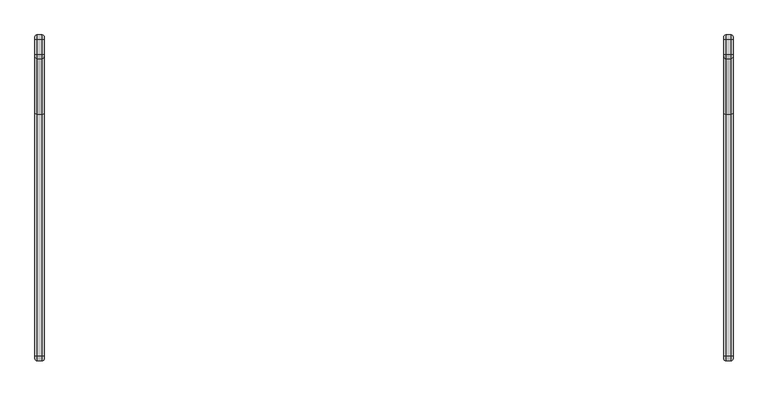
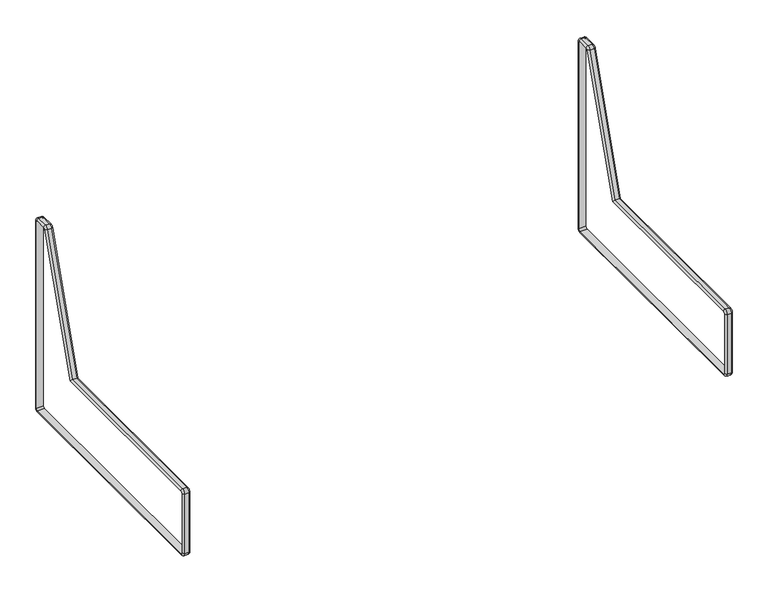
"""IFC4 building model written with IfcOpenShell, lengths in millimetres: furniture geometry, Krug-Amelio-Sleep_Sofa : AME6SL74FALS2."""

from ifc_helpers import new_model, si_unit, point, frame, origin, place, context, project, spatial, polyline, circle_curve, ellipse_curve, trimmed, source, transform, mapped, element, save
from ifc_brep_helpers import plane_surface, cylinder_surface, revolved_surface, advanced_brep


def furniture_eb769623(model_context):
    return source(origin(), model_context, "Body", "AdvancedBrep", [
        advanced_brep(
        [(1860.5501524, -934.6607426, 147.69973), (1860.5501524, -921.9607426, 134.99973), (1873.25, -921.9607426, 134.99973), (1873.25, -934.6607426, 147.69973), (1879.6, -921.9607426, 141.34973), (1879.6, -928.3107426, 147.69973), (1854.2001524, -921.9607426, 141.34973), (1854.2001524, -928.3107426, 147.69973), (1873.25, -934.6607426, 362.29925), (1860.5501524, -934.6607426, 362.29925), (1879.6, -928.3107426, 362.29925), (1854.2001524, -928.3107426, 362.29925), (1860.5501524, -921.9607426, 374.99925), (1873.25, -921.9607426, 374.99925), (1879.6, -921.9607426, 368.64925), (1854.2001524, -921.9607426, 368.64925), (1873.25, -271.3959791, 374.99925), (1860.5501524, -271.3959791, 374.99925), (1879.6, -266.8015951, 368.64925), (1854.2001524, -266.8015951, 368.64925), (1873.25, -122.5871568, 826.8955914), (1860.5501524, -122.5871568, 826.8955914), (1879.6, -116.5557571, 824.9094601), (1854.2001524, -116.5557571, 824.9094601), (1860.5501524, -110.5243574, 835.6233288), (1873.25, -110.5243574, 835.6233288), (1879.6, -110.5243574, 829.2733288), (1854.2001524, -110.5243574, 829.2733288), (1873.25, -70.1124971, 835.6233288), (1860.5501524, -70.1124971, 835.6233288), (1879.6, -70.1124971, 829.2733288), (1854.2001524, -70.1124971, 829.2733288), (1860.5501524, -57.4124971, 822.9233288), (1873.25, -57.4124971, 822.9233288), (1879.6, -63.7624971, 822.9233288), (1854.2001524, -63.7624971, 822.9233288), (1873.25, -57.4124971, 147.69973), (1860.5501524, -57.4124971, 147.69973), (1879.6, -63.7624971, 147.69973), (1854.2001524, -63.7624971, 147.69973), (1860.5501524, -70.1124971, 134.99973), (1873.25, -70.1124971, 134.99973), (1879.6, -70.1124971, 141.34973), (1854.2001524, -70.1124971, 141.34973)],
        [
            (0, 1, circle_curve(frame((1860.5501524, -921.9607426, 147.69973), z_axis=(1.0, 0.0, 0.0), x_axis=(0.0, 0.0, -1.0)), 12.7)),
            (1, 2),
            (2, 3, circle_curve(frame((1873.25, -921.9607426, 147.69973), z_axis=(-1.0, 0.0, 0.0), x_axis=(0.0, 0.0, -1.0)), 12.7)),
            (3, 0),
            (2, 4, circle_curve(frame((1873.25, -921.9607426, 141.34973), z_axis=(0.0, -1.0, 0.0), x_axis=(0.0, 0.0, 1.0)), 6.35)),
            (4, 5, circle_curve(frame((1879.6, -921.9607426, 147.69973), z_axis=(-1.0, 0.0, 0.0), x_axis=(0.0, 0.0, -1.0)), 6.35)),
            (5, 3, circle_curve(frame((1873.25, -928.3107426, 147.69973), z_axis=(0.0, 0.0, -1.0), x_axis=(0.0, 1.0, 0.0)), 6.35)),
            (4, 6),
            (6, 7, circle_curve(frame((1854.2001524, -921.9607426, 147.69973), z_axis=(-1.0, 0.0, 0.0), x_axis=(0.0, 0.0, -1.0)), 6.35)),
            (7, 5),
            (6, 1, circle_curve(frame((1860.5501524, -921.9607426, 141.34973), z_axis=(0.0, -1.0, 0.0), x_axis=(0.0, 0.0, 1.0)), 6.35)),
            (0, 7, circle_curve(frame((1860.5501524, -928.3107426, 147.69973), z_axis=(0.0, 0.0, -1.0), x_axis=(0.0, 1.0, 0.0)), 6.35)),
            (3, 8),
            (8, 9),
            (9, 0),
            (5, 10),
            (10, 8, circle_curve(frame((1873.25, -928.3107426, 362.29925), z_axis=(0.0, 0.0, -1.0), x_axis=(0.0, 1.0, 0.0)), 6.35)),
            (7, 11),
            (11, 10),
            (9, 11, circle_curve(frame((1860.5501524, -928.3107426, 362.29925), z_axis=(0.0, 0.0, -1.0), x_axis=(0.0, 1.0, 0.0)), 6.35)),
            (12, 9, circle_curve(frame((1860.5501524, -921.9607426, 362.29925), z_axis=(1.0, 0.0, 0.0), x_axis=(0.0, -1.0, 0.0)), 12.7)),
            (8, 13, circle_curve(frame((1873.25, -921.9607426, 362.29925), z_axis=(-1.0, 0.0, 0.0), x_axis=(0.0, -1.0, 0.0)), 12.7)),
            (13, 12),
            (10, 14, circle_curve(frame((1879.6, -921.9607426, 362.29925), z_axis=(-1.0, 0.0, 0.0), x_axis=(0.0, -1.0, 0.0)), 6.35)),
            (14, 13, circle_curve(frame((1873.25, -921.9607426, 368.64925), z_axis=(0.0, -1.0, 0.0), x_axis=(0.0, 0.0, -1.0)), 6.35)),
            (11, 15, circle_curve(frame((1854.2001524, -921.9607426, 362.29925), z_axis=(-1.0, 0.0, 0.0), x_axis=(0.0, -1.0, 0.0)), 6.35)),
            (15, 14),
            (12, 15, circle_curve(frame((1860.5501524, -921.9607426, 368.64925), z_axis=(0.0, -1.0, 0.0), x_axis=(0.0, 0.0, -1.0)), 6.35)),
            (13, 16),
            (16, 17),
            (17, 12),
            (14, 18),
            (18, 16, ellipse_curve(frame((1873.25, -266.8015951, 368.64925), z_axis=(0.0, -0.8101779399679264, -0.5861840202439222), x_axis=(0.0, -0.5861840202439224, 0.8101779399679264)), 7.8377844, 6.35)),
            (15, 19),
            (19, 18),
            (17, 19, ellipse_curve(frame((1860.5501524, -266.8015951, 368.64925), z_axis=(0.0, -0.8101779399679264, -0.5861840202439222), x_axis=(0.0, -0.5861840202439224, 0.8101779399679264)), 7.8377844, 6.35)),
            (16, 20),
            (20, 21),
            (21, 17),
            (18, 22),
            (22, 20, circle_curve(frame((1873.25, -116.5557571, 824.9094601), z_axis=(0.0, -0.31277658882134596, -0.9498267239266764), x_axis=(0.0, 0.9498267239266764, -0.31277658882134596)), 6.35)),
            (19, 23),
            (23, 22),
            (21, 23, circle_curve(frame((1860.5501524, -116.5557571, 824.9094601), z_axis=(0.0, -0.31277658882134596, -0.9498267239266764), x_axis=(0.0, 0.9498267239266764, -0.31277658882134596)), 6.35)),
            (24, 21, circle_curve(frame((1860.5501524, -110.5243574, 822.9233288), z_axis=(1.0, 0.0, 0.0), x_axis=(0.0, -0.9498267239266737, 0.3127765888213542)), 12.7)),
            (20, 25, circle_curve(frame((1873.25, -110.5243574, 822.9233288), z_axis=(-1.0, 0.0, 0.0), x_axis=(0.0, -0.9498267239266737, 0.3127765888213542)), 12.7)),
            (25, 24),
            (22, 26, circle_curve(frame((1879.6, -110.5243574, 822.9233288), z_axis=(-1.0, 0.0, 0.0), x_axis=(0.0, -0.9498267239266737, 0.3127765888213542)), 6.35)),
            (26, 25, circle_curve(frame((1873.25, -110.5243574, 829.2733288), z_axis=(0.0, -1.0, 0.0), x_axis=(0.0, 0.0, -1.0)), 6.35)),
            (23, 27, circle_curve(frame((1854.2001524, -110.5243574, 822.9233288), z_axis=(-1.0, 0.0, 0.0), x_axis=(0.0, -0.9498267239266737, 0.3127765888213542)), 6.35)),
            (27, 26),
            (24, 27, circle_curve(frame((1860.5501524, -110.5243574, 829.2733288), z_axis=(0.0, -0.9999999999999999, 0.0), x_axis=(0.0, 0.0, -0.9999999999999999)), 6.35)),
            (25, 28),
            (28, 29),
            (29, 24),
            (26, 30),
            (30, 28, circle_curve(frame((1873.25, -70.1124971, 829.2733288), z_axis=(0.0, -1.0, 0.0), x_axis=(0.0, 0.0, -1.0)), 6.35)),
            (27, 31),
            (31, 30),
            (29, 31, circle_curve(frame((1860.5501524, -70.1124971, 829.2733288), z_axis=(0.0, -1.0, 0.0), x_axis=(0.0, 0.0, -1.0)), 6.35)),
            (32, 29, circle_curve(frame((1860.5501524, -70.1124971, 822.9233288), z_axis=(1.0, 0.0, 0.0), x_axis=(0.0, 0.0, 1.0)), 12.7)),
            (28, 33, circle_curve(frame((1873.25, -70.1124971, 822.9233288), z_axis=(-1.0, 0.0, 0.0), x_axis=(0.0, 0.0, 1.0)), 12.7)),
            (33, 32),
            (30, 34, circle_curve(frame((1879.6, -70.1124971, 822.9233288), z_axis=(-1.0, 0.0, 0.0), x_axis=(0.0, 0.0, 1.0)), 6.35)),
            (34, 33, circle_curve(frame((1873.25, -63.7624971, 822.9233288), z_axis=(0.0, 0.0, 1.0), x_axis=(0.0, -1.0, 0.0)), 6.35)),
            (31, 35, circle_curve(frame((1854.2001524, -70.1124971, 822.9233288), z_axis=(-1.0, 0.0, 0.0), x_axis=(0.0, 0.0, 1.0)), 6.35)),
            (35, 34),
            (32, 35, circle_curve(frame((1860.5501524, -63.7624971, 822.9233288), z_axis=(0.0, 0.0, 1.0), x_axis=(0.0, -1.0, 0.0)), 6.35)),
            (33, 36),
            (36, 37),
            (37, 32),
            (34, 38),
            (38, 36, circle_curve(frame((1873.25, -63.7624971, 147.69973), z_axis=(0.0, 0.0, 1.0), x_axis=(0.0, -1.0, 0.0)), 6.35)),
            (35, 39),
            (39, 38),
            (37, 39, circle_curve(frame((1860.5501524, -63.7624971, 147.69973), z_axis=(0.0, 0.0, 1.0), x_axis=(0.0, -1.0, 0.0)), 6.35)),
            (40, 37, circle_curve(frame((1860.5501524, -70.1124971, 147.69973), z_axis=(1.0, 0.0, 0.0), x_axis=(0.0, 1.0, 0.0)), 12.7)),
            (36, 41, circle_curve(frame((1873.25, -70.1124971, 147.69973), z_axis=(-1.0, 0.0, 0.0), x_axis=(0.0, 1.0, 0.0)), 12.7)),
            (41, 40),
            (38, 42, circle_curve(frame((1879.6, -70.1124971, 147.69973), z_axis=(-1.0, 0.0, 0.0), x_axis=(0.0, 1.0, 0.0)), 6.35)),
            (42, 41, circle_curve(frame((1873.25, -70.1124971, 141.34973), z_axis=(0.0, 1.0, 0.0), x_axis=(0.0, 0.0, 1.0)), 6.35)),
            (39, 43, circle_curve(frame((1854.2001524, -70.1124971, 147.69973), z_axis=(-1.0, 0.0, 0.0), x_axis=(0.0, 1.0, 0.0)), 6.35)),
            (43, 42),
            (40, 43, circle_curve(frame((1860.5501524, -70.1124971, 141.34973), z_axis=(0.0, 1.0, 0.0), x_axis=(0.0, 0.0, 1.0)), 6.35)),
            (41, 2),
            (1, 40),
            (42, 4),
            (43, 6),
        ],
        [
            cylinder_surface(frame((1879.6, -921.9607426, 147.69973), z_axis=(-1.0, 0.0, 0.0), x_axis=(0.0, 0.0, -1.0)), 12.7),
            revolved_surface(trimmed(ellipse_curve(frame((1873.25, -921.9607426, 141.34973), z_axis=(0.0, 1.0, 0.0), x_axis=(0.0, 0.0, 1.0)), 6.35, 6.35), [point((1879.6, -921.9607426, 141.34973))], [point((1873.25, -921.9607426, 134.99973))], True, "CARTESIAN"), (1879.6, -921.9607426, 147.69973), (-1.0, 0.0, 0.0)),
            revolved_surface(polyline([(1854.2001524, -921.9607426, 141.34973), (1879.6, -921.9607426, 141.34973)]), (1879.6, -921.9607426, 147.69973), (-1.0, 0.0, 0.0)),
            revolved_surface(trimmed(ellipse_curve(frame((1860.5501524, -921.9607426, 141.34973), z_axis=(0.0, 1.0, 0.0), x_axis=(0.0, 0.0, 1.0)), 6.35, 6.35), [point((1860.5501524, -921.9607426, 134.99973))], [point((1854.2001524, -921.9607426, 141.34973))], True, "CARTESIAN"), (1879.6, -921.9607426, 147.69973), (-1.0, 0.0, 0.0)),
            plane_surface(frame((1873.25, -934.6607426, 147.69973), z_axis=(0.0, -1.0, 0.0), x_axis=(0.0, 0.0, 1.0))),
            cylinder_surface(frame((1873.25, -928.3107426, 147.69973), z_axis=(0.0, 0.0, -1.0), x_axis=(0.0, 1.0, 0.0)), 6.35),
            plane_surface(frame((1854.2001524, -928.3107426, 147.69973), z_axis=(0.0, 1.0, 0.0), x_axis=(0.0, 0.0, 1.0))),
            cylinder_surface(frame((1860.5501524, -928.3107426, 147.69973), z_axis=(0.0, 0.0, -1.0), x_axis=(0.0, 1.0, 0.0)), 6.35),
            cylinder_surface(frame((1879.6, -921.9607426, 362.29925), z_axis=(-1.0, 0.0, 0.0), x_axis=(0.0, -1.0, 0.0)), 12.7),
            revolved_surface(trimmed(ellipse_curve(frame((1873.25, -928.3107426, 362.29925), z_axis=(0.0, 0.0, -1.0), x_axis=(0.0, 1.0, 0.0)), 6.35, 6.35), [point((1879.6, -928.3107426, 362.29925))], [point((1873.25, -934.6607426, 362.29925))], True, "CARTESIAN"), (1879.6, -921.9607426, 362.29925), (-1.0, 0.0, 0.0)),
            revolved_surface(polyline([(1854.2001524, -928.3107426, 362.29925), (1879.6, -928.3107426, 362.29925)]), (1879.6, -921.9607426, 362.29925), (-1.0, 0.0, 0.0)),
            revolved_surface(trimmed(ellipse_curve(frame((1860.5501524, -928.3107426, 362.29925), z_axis=(0.0, 0.0, -1.0), x_axis=(0.0, 1.0, 0.0)), 6.35, 6.35), [point((1860.5501524, -934.6607426, 362.29925))], [point((1854.2001524, -928.3107426, 362.29925))], True, "CARTESIAN"), (1879.6, -921.9607426, 362.29925), (-1.0, 0.0, 0.0)),
            plane_surface(frame((1873.25, -921.9607426, 374.99925), z_axis=(0.0, 0.0, 1.0), x_axis=(0.0, 1.0, 0.0))),
            cylinder_surface(frame((1873.25, -921.9607426, 368.64925), z_axis=(0.0, -1.0, 0.0), x_axis=(0.0, 0.0, -1.0)), 6.35),
            plane_surface(frame((1854.2001524, -921.9607426, 368.64925), z_axis=(0.0, 0.0, -1.0), x_axis=(0.0, 1.0, 0.0))),
            cylinder_surface(frame((1860.5501524, -921.9607426, 368.64925), z_axis=(0.0, -1.0, 0.0), x_axis=(0.0, 0.0, -1.0)), 6.35),
            plane_surface(frame((1873.25, -271.3959791, 374.99925), z_axis=(0.0, -0.9498267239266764, 0.312776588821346), x_axis=(0.0, 0.312776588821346, 0.9498267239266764))),
            cylinder_surface(frame((1873.25, -265.3645794, 373.0131187), z_axis=(0.0, -0.31277658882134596, -0.9498267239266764), x_axis=(0.0, 0.9498267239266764, -0.31277658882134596)), 6.35),
            plane_surface(frame((1854.2001524, -266.8015951, 368.64925), z_axis=(0.0, 0.9498267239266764, -0.312776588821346), x_axis=(0.0, 0.312776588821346, 0.9498267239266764))),
            cylinder_surface(frame((1860.5501524, -265.3645794, 373.0131187), z_axis=(0.0, -0.31277658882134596, -0.9498267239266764), x_axis=(0.0, 0.9498267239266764, -0.31277658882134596)), 6.35),
            cylinder_surface(frame((1879.6, -110.5243574, 822.9233288), z_axis=(-1.0, 0.0, 0.0), x_axis=(0.0, -0.9498267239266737, 0.3127765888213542)), 12.7),
            revolved_surface(trimmed(ellipse_curve(frame((1873.25, -116.5557571, 824.9094601), z_axis=(0.0, -0.3127765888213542, -0.9498267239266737), x_axis=(0.0, 0.9498267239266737, -0.3127765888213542)), 6.35, 6.35), [point((1879.6, -116.5557571, 824.9094601))], [point((1873.25, -122.5871568, 826.8955914))], True, "CARTESIAN"), (1879.6, -110.5243574, 822.9233288), (-1.0, 0.0, 0.0)),
            revolved_surface(polyline([(1854.2001524, -116.55575709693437, 824.9094601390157), (1879.6, -116.55575709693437, 824.9094601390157)]), (1879.6, -110.5243574, 822.9233288), (-1.0, 0.0, 0.0)),
            revolved_surface(trimmed(ellipse_curve(frame((1860.5501524, -116.5557571, 824.9094601), z_axis=(0.0, -0.3127765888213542, -0.9498267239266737), x_axis=(0.0, 0.9498267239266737, -0.3127765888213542)), 6.35, 6.35), [point((1860.5501524, -122.5871568, 826.8955914))], [point((1854.2001524, -116.5557571, 824.9094601))], True, "CARTESIAN"), (1879.6, -110.5243574, 822.9233288), (-1.0, 0.0, 0.0)),
            plane_surface(frame((1873.25, -110.5243574, 835.6233288), z_axis=(0.0, 0.0, 1.0), x_axis=(0.0, 1.0, 0.0))),
            cylinder_surface(frame((1873.25, -110.5243574, 829.2733288), z_axis=(0.0, -1.0, 0.0), x_axis=(0.0, 0.0, -1.0)), 6.35),
            plane_surface(frame((1854.2001524, -110.5243574, 829.2733288), z_axis=(0.0, 0.0, -1.0), x_axis=(0.0, 1.0, 0.0))),
            cylinder_surface(frame((1860.5501524, -110.5243574, 829.2733288), z_axis=(0.0, -1.0, 0.0), x_axis=(0.0, 0.0, -1.0)), 6.35),
            cylinder_surface(frame((1879.6, -70.1124971, 822.9233288), z_axis=(-1.0, 0.0, 0.0), x_axis=(0.0, 0.0, 1.0)), 12.7),
            revolved_surface(trimmed(ellipse_curve(frame((1873.25, -70.1124971, 829.2733288), z_axis=(0.0, -1.0, 0.0), x_axis=(0.0, 0.0, -1.0)), 6.35, 6.35), [point((1879.6, -70.1124971, 829.2733288))], [point((1873.25, -70.1124971, 835.6233288))], True, "CARTESIAN"), (1879.6, -70.1124971, 822.9233288), (-1.0, 0.0, 0.0)),
            revolved_surface(polyline([(1854.2001524, -70.1124971, 829.2733288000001), (1879.6, -70.1124971, 829.2733288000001)]), (1879.6, -70.1124971, 822.9233288), (-1.0, 0.0, 0.0)),
            revolved_surface(trimmed(ellipse_curve(frame((1860.5501524, -70.1124971, 829.2733288), z_axis=(0.0, -1.0, 0.0), x_axis=(0.0, 0.0, -1.0)), 6.35, 6.35), [point((1860.5501524, -70.1124971, 835.6233288))], [point((1854.2001524, -70.1124971, 829.2733288))], True, "CARTESIAN"), (1879.6, -70.1124971, 822.9233288), (-1.0, 0.0, 0.0)),
            plane_surface(frame((1873.25, -57.4124971, 822.9233288), z_axis=(0.0, 1.0, 0.0), x_axis=(0.0, 0.0, -1.0))),
            cylinder_surface(frame((1873.25, -63.7624971, 822.9233288), z_axis=(0.0, 0.0, 1.0), x_axis=(0.0, -1.0, 0.0)), 6.35),
            plane_surface(frame((1854.2001524, -63.7624971, 822.9233288), z_axis=(0.0, -1.0, 0.0), x_axis=(0.0, 0.0, -1.0))),
            cylinder_surface(frame((1860.5501524, -63.7624971, 822.9233288), z_axis=(0.0, 0.0, 1.0), x_axis=(0.0, -1.0, 0.0)), 6.35),
            cylinder_surface(frame((1879.6, -70.1124971, 147.69973), z_axis=(-1.0, 0.0, 0.0), x_axis=(0.0, 1.0, 0.0)), 12.7),
            revolved_surface(trimmed(ellipse_curve(frame((1873.25, -63.7624971, 147.69973), z_axis=(0.0, 0.0, 1.0), x_axis=(0.0, -1.0, 0.0)), 6.35, 6.35), [point((1879.6, -63.7624971, 147.69973))], [point((1873.25, -57.4124971, 147.69973))], True, "CARTESIAN"), (1879.6, -70.1124971, 147.69973), (-1.0, 0.0, 0.0)),
            revolved_surface(polyline([(1854.2001524, -63.7624971, 147.69973), (1879.6, -63.7624971, 147.69973)]), (1879.6, -70.1124971, 147.69973), (-1.0, 0.0, 0.0)),
            revolved_surface(trimmed(ellipse_curve(frame((1860.5501524, -63.7624971, 147.69973), z_axis=(0.0, 0.0, 1.0), x_axis=(0.0, -1.0, 0.0)), 6.35, 6.35), [point((1860.5501524, -57.4124971, 147.69973))], [point((1854.2001524, -63.7624971, 147.69973))], True, "CARTESIAN"), (1879.6, -70.1124971, 147.69973), (-1.0, 0.0, 0.0)),
            plane_surface(frame((1873.25, -70.1124971, 134.99973), z_axis=(0.0, 0.0, -1.0), x_axis=(0.0, -1.0, 0.0))),
            cylinder_surface(frame((1873.25, -70.1124971, 141.34973), z_axis=(0.0, 1.0, 0.0), x_axis=(0.0, 0.0, 1.0)), 6.35),
            plane_surface(frame((1854.2001524, -70.1124971, 141.34973), z_axis=(0.0, 0.0, 1.0), x_axis=(0.0, -1.0, 0.0))),
            cylinder_surface(frame((1860.5501524, -70.1124971, 141.34973), z_axis=(0.0, 1.0, 0.0), x_axis=(0.0, 0.0, 1.0)), 6.35),
        ],
        [
            (0, [[1, 2, 3, 4]]),
            (1, [[-3, 5, 6, 7]]),
            (2, [[-6, 8, 9, 10]]),
            (3, [[-9, 11, -1, 12]]),
            (4, [[-4, 13, 14, 15]]),
            (5, [[-7, 16, 17, -13]]),
            (6, [[-10, 18, 19, -16]]),
            (7, [[-12, -15, 20, -18]]),
            (8, [[21, -14, 22, 23]]),
            (9, [[-22, -17, 24, 25]]),
            (10, [[-24, -19, 26, 27]]),
            (11, [[-26, -20, -21, 28]]),
            (12, [[-23, 29, 30, 31]]),
            (13, [[-25, 32, 33, -29]]),
            (14, [[-27, 34, 35, -32]]),
            (15, [[-28, -31, 36, -34]]),
            (16, [[-30, 37, 38, 39]]),
            (17, [[-33, 40, 41, -37]]),
            (18, [[-35, 42, 43, -40]]),
            (19, [[-36, -39, 44, -42]]),
            (20, [[45, -38, 46, 47]]),
            (21, [[-46, -41, 48, 49]]),
            (22, [[-48, -43, 50, 51]]),
            (23, [[-50, -44, -45, 52]]),
            (24, [[-47, 53, 54, 55]]),
            (25, [[-49, 56, 57, -53]]),
            (26, [[-51, 58, 59, -56]]),
            (27, [[-52, -55, 60, -58]]),
            (28, [[61, -54, 62, 63]]),
            (29, [[-62, -57, 64, 65]]),
            (30, [[-64, -59, 66, 67]]),
            (31, [[-66, -60, -61, 68]]),
            (32, [[-63, 69, 70, 71]]),
            (33, [[-65, 72, 73, -69]]),
            (34, [[-67, 74, 75, -72]]),
            (35, [[-68, -71, 76, -74]]),
            (36, [[77, -70, 78, 79]]),
            (37, [[-78, -73, 80, 81]]),
            (38, [[-80, -75, 82, 83]]),
            (39, [[-82, -76, -77, 84]]),
            (40, [[-79, 85, -2, 86]]),
            (41, [[-81, 87, -5, -85]]),
            (42, [[-83, 88, -8, -87]]),
            (43, [[-84, -86, -11, -88]]),
        ],
    ),
        advanced_brep(
        [(6.35, -934.6607426, 147.69973), (6.35, -921.9607426, 134.99973), (19.0498476, -921.9607426, 134.99973), (19.0498476, -934.6607426, 147.69973), (0.0, -928.3107426, 147.69973), (0.0, -921.9607426, 141.34973), (25.3998476, -928.3107426, 147.69973), (25.3998476, -921.9607426, 141.34973), (19.0498476, -934.6607426, 362.29925), (6.35, -934.6607426, 362.29925), (0.0, -928.3107426, 362.29925), (25.3998476, -928.3107426, 362.29925), (6.35, -921.9607426, 374.99925), (19.0498476, -921.9607426, 374.99925), (0.0, -921.9607426, 368.64925), (25.3998476, -921.9607426, 368.64925), (19.0498476, -271.3959791, 374.99925), (6.35, -271.3959791, 374.99925), (0.0, -266.8015951, 368.64925), (25.3998476, -266.8015951, 368.64925), (19.0498476, -122.5871568, 826.8955914), (6.35, -122.5871568, 826.8955914), (0.0, -116.5557571, 824.9094601), (25.3998476, -116.5557571, 824.9094601), (6.35, -110.5243574, 835.6233287), (19.0498476, -110.5243574, 835.6233287), (0.0, -110.5243574, 829.2733287), (25.3998476, -110.5243574, 829.2733287), (19.0498476, -70.1124971, 835.6233287), (6.35, -70.1124971, 835.6233287), (0.0, -70.1124971, 829.2733287), (25.3998476, -70.1124971, 829.2733287), (6.35, -57.4124971, 822.9233288), (19.0498476, -57.4124971, 822.9233288), (0.0, -63.7624971, 822.9233288), (25.3998476, -63.7624971, 822.9233288), (19.0498476, -57.4124971, 147.69973), (6.35, -57.4124971, 147.69973), (0.0, -63.7624971, 147.69973), (25.3998476, -63.7624971, 147.69973), (6.35, -70.1124971, 134.99973), (19.0498476, -70.1124971, 134.99973), (0.0, -70.1124971, 141.34973), (25.3998476, -70.1124971, 141.34973)],
        [
            (0, 1, circle_curve(frame((6.35, -921.9607426, 147.69973), z_axis=(1.0, 0.0, 0.0), x_axis=(0.0, 0.0, -1.0)), 12.7)),
            (1, 2),
            (2, 3, circle_curve(frame((19.0498476, -921.9607426, 147.69973), z_axis=(-1.0, 0.0, 0.0), x_axis=(0.0, 0.0, -1.0)), 12.7)),
            (3, 0),
            (4, 5, circle_curve(frame((0.0, -921.9607426, 147.69973), z_axis=(1.0, 0.0, 0.0), x_axis=(0.0, 0.0, -1.0)), 6.35)),
            (5, 1, circle_curve(frame((6.35, -921.9607426, 141.34973), z_axis=(0.0, -1.0, 0.0), x_axis=(0.0, 0.0, -1.0)), 6.35)),
            (0, 4, circle_curve(frame((6.35, -928.3107426, 147.69973), z_axis=(0.0, 0.0, -1.0), x_axis=(0.0, -1.0, 0.0)), 6.35)),
            (6, 7, circle_curve(frame((25.3998476, -921.9607426, 147.69973), z_axis=(1.0, 0.0, 0.0), x_axis=(0.0, 0.0, -1.0)), 6.35)),
            (7, 5),
            (4, 6),
            (2, 7, circle_curve(frame((19.0498476, -921.9607426, 141.34973), z_axis=(0.0, -1.0, 0.0), x_axis=(0.0, 0.0, -1.0)), 6.35)),
            (6, 3, circle_curve(frame((19.0498476, -928.3107426, 147.69973), z_axis=(0.0, 0.0, -1.0), x_axis=(0.0, -1.0, 0.0)), 6.35)),
            (3, 8),
            (8, 9),
            (9, 0),
            (9, 10, circle_curve(frame((6.35, -928.3107426, 362.29925), z_axis=(0.0, 0.0, -1.0), x_axis=(0.0, -1.0, 0.0)), 6.35)),
            (10, 4),
            (10, 11),
            (11, 6),
            (11, 8, circle_curve(frame((19.0498476, -928.3107426, 362.29925), z_axis=(0.0, 0.0, -1.0), x_axis=(0.0, -1.0, 0.0)), 6.35)),
            (12, 9, circle_curve(frame((6.35, -921.9607426, 362.29925), z_axis=(1.0, 0.0, 0.0), x_axis=(0.0, -1.0, 0.0)), 12.7)),
            (8, 13, circle_curve(frame((19.0498476, -921.9607426, 362.29925), z_axis=(-1.0, 0.0, 0.0), x_axis=(0.0, -1.0, 0.0)), 12.7)),
            (13, 12),
            (14, 10, circle_curve(frame((0.0, -921.9607426, 362.29925), z_axis=(1.0, 0.0, 0.0), x_axis=(0.0, -1.0, 0.0)), 6.35)),
            (12, 14, circle_curve(frame((6.35, -921.9607426, 368.64925), z_axis=(0.0, -1.0, 0.0), x_axis=(0.0, 0.0, 1.0)), 6.35)),
            (15, 11, circle_curve(frame((25.3998476, -921.9607426, 362.29925), z_axis=(1.0, 0.0, 0.0), x_axis=(0.0, -1.0, 0.0)), 6.35)),
            (14, 15),
            (15, 13, circle_curve(frame((19.0498476, -921.9607426, 368.64925), z_axis=(0.0, -1.0, 0.0), x_axis=(0.0, 0.0, 1.0)), 6.35)),
            (13, 16),
            (16, 17),
            (17, 12),
            (17, 18, ellipse_curve(frame((6.35, -266.8015951, 368.64925), z_axis=(0.0, -0.8101779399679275, -0.5861840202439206), x_axis=(0.0, -0.5861840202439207, 0.8101779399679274)), 7.8377844, 6.35)),
            (18, 14),
            (18, 19),
            (19, 15),
            (19, 16, ellipse_curve(frame((19.0498476, -266.8015951, 368.64925), z_axis=(0.0, -0.8101779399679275, -0.5861840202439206), x_axis=(0.0, -0.5861840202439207, 0.8101779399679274)), 7.8377844, 6.35)),
            (16, 20),
            (20, 21),
            (21, 17),
            (21, 22, circle_curve(frame((6.35, -116.5557571, 824.9094601), z_axis=(0.0, -0.3127765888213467, -0.9498267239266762), x_axis=(0.0, -0.9498267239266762, 0.3127765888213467)), 6.35)),
            (22, 18),
            (22, 23),
            (23, 19),
            (23, 20, circle_curve(frame((19.0498476, -116.5557571, 824.9094601), z_axis=(0.0, -0.3127765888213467, -0.9498267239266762), x_axis=(0.0, -0.9498267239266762, 0.3127765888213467)), 6.35)),
            (24, 21, circle_curve(frame((6.35, -110.5243574, 822.9233288), z_axis=(1.0, 0.0, 0.0), x_axis=(0.0, -0.9498267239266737, 0.3127765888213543)), 12.7)),
            (20, 25, circle_curve(frame((19.0498476, -110.5243574, 822.9233288), z_axis=(-1.0, 0.0, 0.0), x_axis=(0.0, -0.9498267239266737, 0.3127765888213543)), 12.7)),
            (25, 24),
            (26, 22, circle_curve(frame((0.0, -110.5243574, 822.9233288), z_axis=(1.0, 0.0, 0.0), x_axis=(0.0, -0.9498267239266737, 0.3127765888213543)), 6.35)),
            (24, 26, circle_curve(frame((6.35, -110.5243574, 829.2733287), z_axis=(0.0, -1.0, 0.0), x_axis=(0.0, 0.0, 1.0)), 6.35)),
            (27, 23, circle_curve(frame((25.3998476, -110.5243574, 822.9233288), z_axis=(1.0, 0.0, 0.0), x_axis=(0.0, -0.9498267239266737, 0.3127765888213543)), 6.35)),
            (26, 27),
            (27, 25, circle_curve(frame((19.0498476, -110.5243574, 829.2733287), z_axis=(0.0, -1.0, 0.0), x_axis=(0.0, 0.0, 1.0)), 6.35)),
            (25, 28),
            (28, 29),
            (29, 24),
            (29, 30, circle_curve(frame((6.35, -70.1124971, 829.2733287), z_axis=(0.0, -1.0, 0.0), x_axis=(0.0, 0.0, 1.0)), 6.35)),
            (30, 26),
            (30, 31),
            (31, 27),
            (31, 28, circle_curve(frame((19.0498476, -70.1124971, 829.2733287), z_axis=(0.0, -1.0, 0.0), x_axis=(0.0, 0.0, 1.0)), 6.35)),
            (32, 29, circle_curve(frame((6.35, -70.1124971, 822.9233288), z_axis=(1.0, 0.0, 0.0), x_axis=(0.0, 0.0, 1.0)), 12.7)),
            (28, 33, circle_curve(frame((19.0498476, -70.1124971, 822.9233288), z_axis=(-1.0, 0.0, 0.0), x_axis=(0.0, 0.0, 1.0)), 12.7)),
            (33, 32),
            (34, 30, circle_curve(frame((0.0, -70.1124971, 822.9233288), z_axis=(1.0, 0.0, 0.0), x_axis=(0.0, 0.0, 1.0)), 6.35)),
            (32, 34, circle_curve(frame((6.35, -63.7624971, 822.9233288), z_axis=(0.0, 0.0, 1.0), x_axis=(0.0, 1.0, 0.0)), 6.35)),
            (35, 31, circle_curve(frame((25.3998476, -70.1124971, 822.9233288), z_axis=(1.0, 0.0, 0.0), x_axis=(0.0, 0.0, 1.0)), 6.35)),
            (34, 35),
            (35, 33, circle_curve(frame((19.0498476, -63.7624971, 822.9233288), z_axis=(0.0, 0.0, 1.0), x_axis=(0.0, 1.0, 0.0)), 6.35)),
            (33, 36),
            (36, 37),
            (37, 32),
            (37, 38, circle_curve(frame((6.35, -63.7624971, 147.69973), z_axis=(0.0, 0.0, 1.0), x_axis=(0.0, 1.0, 0.0)), 6.35)),
            (38, 34),
            (38, 39),
            (39, 35),
            (39, 36, circle_curve(frame((19.0498476, -63.7624971, 147.69973), z_axis=(0.0, 0.0, 1.0), x_axis=(0.0, 1.0, 0.0)), 6.35)),
            (40, 37, circle_curve(frame((6.35, -70.1124971, 147.69973), z_axis=(1.0, 0.0, 0.0), x_axis=(0.0, 1.0, 0.0)), 12.7)),
            (36, 41, circle_curve(frame((19.0498476, -70.1124971, 147.69973), z_axis=(-1.0, 0.0, 0.0), x_axis=(0.0, 1.0, 0.0)), 12.7)),
            (41, 40),
            (42, 38, circle_curve(frame((0.0, -70.1124971, 147.69973), z_axis=(1.0, 0.0, 0.0), x_axis=(0.0, 1.0, 0.0)), 6.35)),
            (40, 42, circle_curve(frame((6.35, -70.1124971, 141.34973), z_axis=(0.0, 1.0, 0.0), x_axis=(0.0, 0.0, -1.0)), 6.35)),
            (43, 39, circle_curve(frame((25.3998476, -70.1124971, 147.69973), z_axis=(1.0, 0.0, 0.0), x_axis=(0.0, 1.0, 0.0)), 6.35)),
            (42, 43),
            (43, 41, circle_curve(frame((19.0498476, -70.1124971, 141.34973), z_axis=(0.0, 1.0, 0.0), x_axis=(0.0, 0.0, -1.0)), 6.35)),
            (41, 2),
            (1, 40),
            (5, 42),
            (7, 43),
        ],
        [
            cylinder_surface(frame((0.0, -921.9607426, 147.69973), z_axis=(-1.0, 0.0, 0.0), x_axis=(0.0, 0.0, -1.0)), 12.7),
            revolved_surface(trimmed(ellipse_curve(frame((6.35, -921.9607426, 141.34973), z_axis=(0.0, 1.0, 0.0), x_axis=(0.0, 0.0, -1.0)), 6.35, 6.35), [point((6.35, -921.9607426, 134.99973))], [point((0.0, -921.9607426, 141.34973))], True, "CARTESIAN"), (0.0, -921.9607426, 147.69973), (-1.0, 0.0, 0.0)),
            revolved_surface(polyline([(0.0, -921.9607426, 141.34973), (25.3998476, -921.9607426, 141.34973)]), (0.0, -921.9607426, 147.69973), (-1.0, 0.0, 0.0)),
            revolved_surface(trimmed(ellipse_curve(frame((19.0498476, -921.9607426, 141.34973), z_axis=(0.0, 1.0, 0.0), x_axis=(0.0, 0.0, -1.0)), 6.35, 6.35), [point((25.3998476, -921.9607426, 141.34973))], [point((19.0498476, -921.9607426, 134.99973))], True, "CARTESIAN"), (0.0, -921.9607426, 147.69973), (-1.0, 0.0, 0.0)),
            plane_surface(frame((19.0498476, -934.6607426, 147.69973), z_axis=(0.0, -1.0, 0.0), x_axis=(0.0, 0.0, 1.0))),
            cylinder_surface(frame((6.35, -928.3107426, 147.69973), z_axis=(0.0, 0.0, -1.0), x_axis=(0.0, -1.0, 0.0)), 6.35),
            plane_surface(frame((0.0, -928.3107426, 147.69973), z_axis=(0.0, 1.0, 0.0), x_axis=(0.0, 0.0, 1.0))),
            cylinder_surface(frame((19.0498476, -928.3107426, 147.69973), z_axis=(0.0, 0.0, -1.0), x_axis=(0.0, -1.0, 0.0)), 6.35),
            cylinder_surface(frame((0.0, -921.9607426, 362.29925), z_axis=(-1.0, 0.0, 0.0), x_axis=(0.0, -1.0, 0.0)), 12.7),
            revolved_surface(trimmed(ellipse_curve(frame((6.35, -928.3107426, 362.29925), z_axis=(0.0, 0.0, -1.0), x_axis=(0.0, -1.0, 0.0)), 6.35, 6.35), [point((6.35, -934.6607426, 362.29925))], [point((0.0, -928.3107426, 362.29925))], True, "CARTESIAN"), (0.0, -921.9607426, 362.29925), (-1.0, 0.0, 0.0)),
            revolved_surface(polyline([(0.0, -928.3107426, 362.29925), (25.3998476, -928.3107426, 362.29925)]), (0.0, -921.9607426, 362.29925), (-1.0, 0.0, 0.0)),
            revolved_surface(trimmed(ellipse_curve(frame((19.0498476, -928.3107426, 362.29925), z_axis=(0.0, 0.0, -1.0), x_axis=(0.0, -1.0, 0.0)), 6.35, 6.35), [point((25.3998476, -928.3107426, 362.29925))], [point((19.0498476, -934.6607426, 362.29925))], True, "CARTESIAN"), (0.0, -921.9607426, 362.29925), (-1.0, 0.0, 0.0)),
            plane_surface(frame((19.0498476, -921.9607426, 374.99925), z_axis=(0.0, 0.0, 1.0), x_axis=(0.0, 1.0, 0.0))),
            cylinder_surface(frame((6.35, -921.9607426, 368.64925), z_axis=(0.0, -1.0, 0.0), x_axis=(0.0, 0.0, 1.0)), 6.35),
            plane_surface(frame((0.0, -921.9607426, 368.64925), z_axis=(0.0, 0.0, -1.0), x_axis=(0.0, 1.0, 0.0))),
            cylinder_surface(frame((19.0498476, -921.9607426, 368.64925), z_axis=(0.0, -1.0, 0.0), x_axis=(0.0, 0.0, 1.0)), 6.35),
            plane_surface(frame((19.0498476, -271.3959791, 374.99925), z_axis=(0.0, -0.9498267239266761, 0.31277658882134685), x_axis=(0.0, 0.31277658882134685, 0.9498267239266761))),
            cylinder_surface(frame((6.35, -265.3645794, 373.0131187), z_axis=(0.0, -0.3127765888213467, -0.9498267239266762), x_axis=(0.0, -0.9498267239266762, 0.3127765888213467)), 6.35),
            plane_surface(frame((0.0, -266.8015951, 368.64925), z_axis=(0.0, 0.9498267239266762, -0.3127765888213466), x_axis=(0.0, 0.3127765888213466, 0.9498267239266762))),
            cylinder_surface(frame((19.0498476, -265.3645794, 373.0131187), z_axis=(0.0, -0.3127765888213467, -0.9498267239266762), x_axis=(0.0, -0.9498267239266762, 0.3127765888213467)), 6.35),
            cylinder_surface(frame((0.0, -110.5243574, 822.9233288), z_axis=(-1.0, 0.0, 0.0), x_axis=(0.0, -0.9498267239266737, 0.3127765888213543)), 12.7),
            revolved_surface(trimmed(ellipse_curve(frame((6.35, -116.5557571, 824.9094601), z_axis=(0.0, -0.3127765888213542, -0.9498267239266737), x_axis=(0.0, -0.9498267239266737, 0.3127765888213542)), 6.35, 6.35), [point((6.35, -122.5871568, 826.8955914))], [point((0.0, -116.5557571, 824.9094601))], True, "CARTESIAN"), (0.0, -110.5243574, 822.9233288), (-1.0, 0.0, 0.0)),
            revolved_surface(polyline([(0.0, -116.55575709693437, 824.9094601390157), (25.3998476, -116.55575709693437, 824.9094601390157)]), (0.0, -110.5243574, 822.9233288), (-1.0, 0.0, 0.0)),
            revolved_surface(trimmed(ellipse_curve(frame((19.0498476, -116.5557571, 824.9094601), z_axis=(0.0, -0.3127765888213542, -0.9498267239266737), x_axis=(0.0, -0.9498267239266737, 0.3127765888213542)), 6.35, 6.35), [point((25.3998476, -116.5557571, 824.9094601))], [point((19.0498476, -122.5871568, 826.8955914))], True, "CARTESIAN"), (0.0, -110.5243574, 822.9233288), (-1.0, 0.0, 0.0)),
            plane_surface(frame((19.0498476, -110.5243574, 835.6233287), z_axis=(0.0, 0.0, 1.0), x_axis=(0.0, 1.0, 0.0))),
            cylinder_surface(frame((6.35, -110.5243574, 829.2733287), z_axis=(0.0, -1.0, 0.0), x_axis=(0.0, 0.0, 1.0)), 6.35),
            plane_surface(frame((0.0, -110.5243574, 829.2733287), z_axis=(0.0, 0.0, -1.0), x_axis=(0.0, 1.0, 0.0))),
            cylinder_surface(frame((19.0498476, -110.5243574, 829.2733287), z_axis=(0.0, -1.0, 0.0), x_axis=(0.0, 0.0, 1.0)), 6.35),
            cylinder_surface(frame((0.0, -70.1124971, 822.9233288), z_axis=(-1.0, 0.0, 0.0), x_axis=(0.0, 0.0, 1.0)), 12.7),
            revolved_surface(trimmed(ellipse_curve(frame((6.35, -70.1124971, 829.2733287), z_axis=(0.0, -1.0, 0.0), x_axis=(0.0, 0.0, 1.0)), 6.35, 6.35), [point((6.35, -70.1124971, 835.6233287))], [point((0.0, -70.1124971, 829.2733287))], True, "CARTESIAN"), (0.0, -70.1124971, 822.9233288), (-1.0, 0.0, 0.0)),
            revolved_surface(polyline([(0.0, -70.1124971, 829.2733288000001), (25.3998476, -70.1124971, 829.2733288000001)]), (0.0, -70.1124971, 822.9233288), (-1.0, 0.0, 0.0)),
            revolved_surface(trimmed(ellipse_curve(frame((19.0498476, -70.1124971, 829.2733287), z_axis=(0.0, -1.0, 0.0), x_axis=(0.0, 0.0, 1.0)), 6.35, 6.35), [point((25.3998476, -70.1124971, 829.2733287))], [point((19.0498476, -70.1124971, 835.6233287))], True, "CARTESIAN"), (0.0, -70.1124971, 822.9233288), (-1.0, 0.0, 0.0)),
            plane_surface(frame((19.0498476, -57.4124971, 822.9233288), z_axis=(0.0, 1.0, 0.0), x_axis=(0.0, 0.0, -1.0))),
            cylinder_surface(frame((6.35, -63.7624971, 822.9233288), z_axis=(0.0, 0.0, 1.0), x_axis=(0.0, 1.0, 0.0)), 6.35),
            plane_surface(frame((0.0, -63.7624971, 822.9233288), z_axis=(0.0, -1.0, 0.0), x_axis=(0.0, 0.0, -1.0))),
            cylinder_surface(frame((19.0498476, -63.7624971, 822.9233288), z_axis=(0.0, 0.0, 1.0), x_axis=(0.0, 1.0, 0.0)), 6.35),
            cylinder_surface(frame((0.0, -70.1124971, 147.69973), z_axis=(-1.0, 0.0, 0.0), x_axis=(0.0, 1.0, 0.0)), 12.7),
            revolved_surface(trimmed(ellipse_curve(frame((6.35, -63.7624971, 147.69973), z_axis=(0.0, 0.0, 1.0), x_axis=(0.0, 1.0, 0.0)), 6.35, 6.35), [point((6.35, -57.4124971, 147.69973))], [point((0.0, -63.7624971, 147.69973))], True, "CARTESIAN"), (0.0, -70.1124971, 147.69973), (-1.0, 0.0, 0.0)),
            revolved_surface(polyline([(0.0, -63.7624971, 147.69973), (25.3998476, -63.7624971, 147.69973)]), (0.0, -70.1124971, 147.69973), (-1.0, 0.0, 0.0)),
            revolved_surface(trimmed(ellipse_curve(frame((19.0498476, -63.7624971, 147.69973), z_axis=(0.0, 0.0, 1.0), x_axis=(0.0, 1.0, 0.0)), 6.35, 6.35), [point((25.3998476, -63.7624971, 147.69973))], [point((19.0498476, -57.4124971, 147.69973))], True, "CARTESIAN"), (0.0, -70.1124971, 147.69973), (-1.0, 0.0, 0.0)),
            plane_surface(frame((19.0498476, -70.1124971, 134.99973), z_axis=(0.0, 0.0, -1.0), x_axis=(0.0, -1.0, 0.0))),
            cylinder_surface(frame((6.35, -70.1124971, 141.34973), z_axis=(0.0, 1.0, 0.0), x_axis=(0.0, 0.0, -1.0)), 6.35),
            plane_surface(frame((0.0, -70.1124971, 141.34973), z_axis=(0.0, 0.0, 1.0), x_axis=(0.0, -1.0, 0.0))),
            cylinder_surface(frame((19.0498476, -70.1124971, 141.34973), z_axis=(0.0, 1.0, 0.0), x_axis=(0.0, 0.0, -1.0)), 6.35),
        ],
        [
            (0, [[1, 2, 3, 4]]),
            (1, [[5, 6, -1, 7]]),
            (2, [[8, 9, -5, 10]]),
            (3, [[-3, 11, -8, 12]]),
            (4, [[-4, 13, 14, 15]]),
            (5, [[-7, -15, 16, 17]]),
            (6, [[-10, -17, 18, 19]]),
            (7, [[-12, -19, 20, -13]]),
            (8, [[21, -14, 22, 23]]),
            (9, [[24, -16, -21, 25]]),
            (10, [[26, -18, -24, 27]]),
            (11, [[-22, -20, -26, 28]]),
            (12, [[-23, 29, 30, 31]]),
            (13, [[-25, -31, 32, 33]]),
            (14, [[-27, -33, 34, 35]]),
            (15, [[-28, -35, 36, -29]]),
            (16, [[-30, 37, 38, 39]]),
            (17, [[-32, -39, 40, 41]]),
            (18, [[-34, -41, 42, 43]]),
            (19, [[-36, -43, 44, -37]]),
            (20, [[45, -38, 46, 47]]),
            (21, [[48, -40, -45, 49]]),
            (22, [[50, -42, -48, 51]]),
            (23, [[-46, -44, -50, 52]]),
            (24, [[-47, 53, 54, 55]]),
            (25, [[-49, -55, 56, 57]]),
            (26, [[-51, -57, 58, 59]]),
            (27, [[-52, -59, 60, -53]]),
            (28, [[61, -54, 62, 63]]),
            (29, [[64, -56, -61, 65]]),
            (30, [[66, -58, -64, 67]]),
            (31, [[-62, -60, -66, 68]]),
            (32, [[-63, 69, 70, 71]]),
            (33, [[-65, -71, 72, 73]]),
            (34, [[-67, -73, 74, 75]]),
            (35, [[-68, -75, 76, -69]]),
            (36, [[77, -70, 78, 79]]),
            (37, [[80, -72, -77, 81]]),
            (38, [[82, -74, -80, 83]]),
            (39, [[-78, -76, -82, 84]]),
            (40, [[-79, 85, -2, 86]]),
            (41, [[-81, -86, -6, 87]]),
            (42, [[-83, -87, -9, 88]]),
            (43, [[-84, -88, -11, -85]]),
        ],
    ),
    ])


if __name__ == "__main__":
    model = new_model("IFC4")
    model_context = context("Model", 3, world=origin())
    ifc_project = project(units=[si_unit("LENGTHUNIT", "METRE", prefix="MILLI")], contexts=[model_context])
    site = spatial("IfcSite", under=ifc_project)
    building = spatial("IfcBuilding", under=site)
    placement = place(None, origin())
    furniture_shape = furniture_eb769623(model_context)
    element("IfcFurniture", 1, ObjectType="Krug-Amelio-Sleep_Sofa : AME6SL74FALS2", at=placement, inside=building, context=model_context, shape_type="MappedRepresentation", body=[
        mapped(furniture_shape, transform((0.0, 0.0, 0.0), x_axis=(1.0, 0.0, 0.0), y_axis=(0.0, 1.0, 0.0), z_axis=(0.0, 0.0, 1.0))),
    ])
    save(model, "model.ifc")
